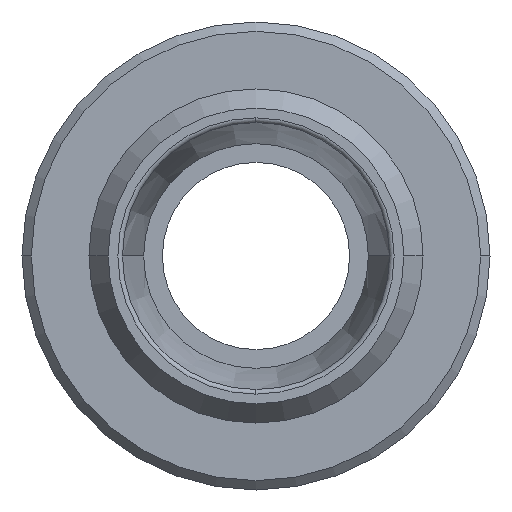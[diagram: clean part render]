
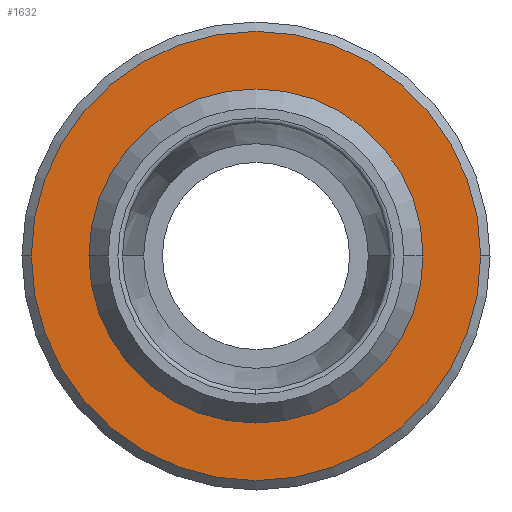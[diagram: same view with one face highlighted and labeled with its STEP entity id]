
A CAD part, left-side view. The second image highlights one B-rep face of the part: STEP entity #1632.
In plain terms, the highlighted planar face has unit normal (-1, 0, 0) as drawn and (0, 0, 1) by its records, which use the part's own axes.
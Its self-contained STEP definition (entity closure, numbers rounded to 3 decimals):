
#141=CARTESIAN_POINT('',(-12.0,0.,25.0));
#142=VERTEX_POINT('',#141);
#151=CARTESIAN_POINT('',(12.0,0.0,25.0));
#152=VERTEX_POINT('',#151);
#153=CARTESIAN_POINT('',(0.0,0.0,25.0));
#154=DIRECTION('',(0.0,0.0,-1.0));
#155=DIRECTION('',(-1.0,0.0,0.0));
#156=AXIS2_PLACEMENT_3D('',#153,#154,#155);
#157=CIRCLE('',#156,12.0);
#158=EDGE_CURVE('',#142,#152,#157,.T.);
#836=CARTESIAN_POINT('',(0.,-8.8,25.0));
#837=VERTEX_POINT('',#836);
#863=CARTESIAN_POINT('',(0.,8.8,25.0));
#864=VERTEX_POINT('',#863);
#872=CARTESIAN_POINT('',(0.,0.,25.0));
#873=DIRECTION('',(0.0,0.0,1.0));
#874=DIRECTION('',(-1.0,0.0,0.0));
#875=AXIS2_PLACEMENT_3D('',#872,#873,#874);
#876=CIRCLE('',#875,8.8);
#877=EDGE_CURVE('',#864,#837,#876,.T.);
#1558=CARTESIAN_POINT('',(8.8,0.,25.));
#1559=VERTEX_POINT('',#1558);
#1560=CARTESIAN_POINT('',(0.,0.,25.0));
#1561=DIRECTION('',(0.0,0.0,1.0));
#1562=DIRECTION('',(-1.0,0.0,0.0));
#1563=AXIS2_PLACEMENT_3D('',#1560,#1561,#1562);
#1564=CIRCLE('',#1563,8.8);
#1565=EDGE_CURVE('',#837,#1559,#1564,.T.);
#1567=CARTESIAN_POINT('',(0.,0.,25.0));
#1568=DIRECTION('',(0.0,0.0,1.0));
#1569=DIRECTION('',(-1.0,0.0,0.0));
#1570=AXIS2_PLACEMENT_3D('',#1567,#1568,#1569);
#1571=CIRCLE('',#1570,8.8);
#1572=EDGE_CURVE('',#1559,#864,#1571,.T.);
#1612=CARTESIAN_POINT('',(1.136,0.,25.0));
#1613=DIRECTION('',(0.0,0.0,1.0));
#1614=DIRECTION('',(1.0,0.0,0.0));
#1615=AXIS2_PLACEMENT_3D('',#1612,#1613,#1614);
#1616=PLANE('',#1615);
#1617=CARTESIAN_POINT('',(0.0,0.0,25.0));
#1618=DIRECTION('',(0.0,0.0,-1.0));
#1619=DIRECTION('',(-1.0,0.0,0.0));
#1620=AXIS2_PLACEMENT_3D('',#1617,#1618,#1619);
#1621=CIRCLE('',#1620,12.0);
#1622=EDGE_CURVE('',#152,#142,#1621,.T.);
#1623=ORIENTED_EDGE('',*,*,#1622,.F.);
#1624=ORIENTED_EDGE('',*,*,#158,.F.);
#1625=EDGE_LOOP('',(#1623,#1624));
#1626=FACE_OUTER_BOUND('',#1625,.T.);
#1627=ORIENTED_EDGE('',*,*,#1572,.F.);
#1628=ORIENTED_EDGE('',*,*,#1565,.F.);
#1629=ORIENTED_EDGE('',*,*,#877,.F.);
#1630=EDGE_LOOP('',(#1627,#1628,#1629));
#1631=FACE_BOUND('',#1630,.T.);
#1632=ADVANCED_FACE('',(#1626,#1631),#1616,.T.);
